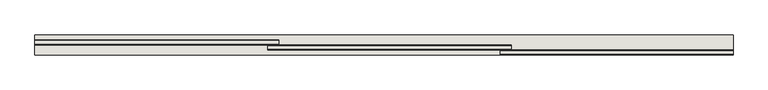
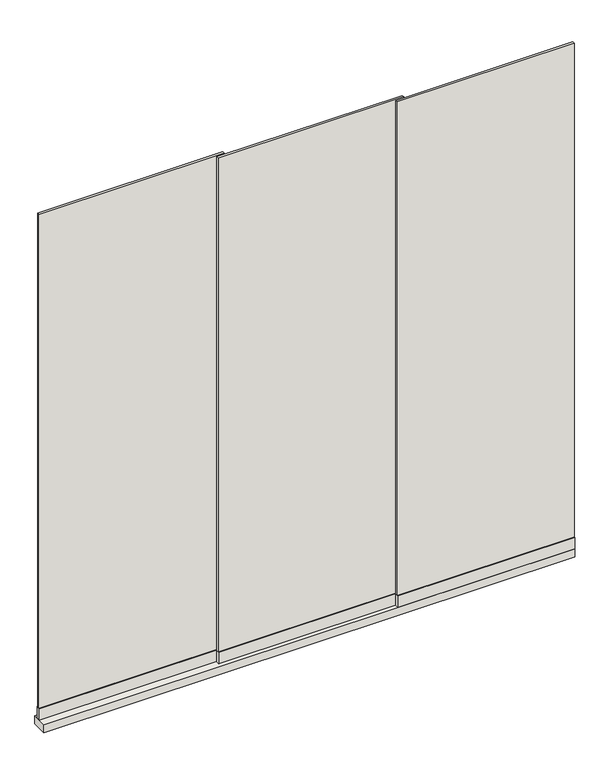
"""IFC4 building model written with IfcOpenShell, lengths in millimetres: wall geometry, Renson_Amani_Glass_Sliding_Panel : Renson_Amani_Glass_Sliding_Panel."""

from ifc_helpers import new_model, si_unit, frame, origin, origin_with_axes, place, context, project, spatial, polyline, outline, extrude, source, transform, mapped, element, save


def wall_1bcae838(model_context):
    return source(origin(), model_context, "Body", "SweptSolid", [
        extrude(outline(polyline([(750.0, 0.0), (-1450.0, 0.0), (-1450.0, 64.0), (750.0, 64.0), (750.0, 0.0)])), origin_with_axes(), (0.0, 0.0, 1.0), 35.0),
        extrude(outline(polyline([(750.0, 3.0), (16.6666667, 3.0), (16.6666667, 13.0), (750.0, 13.0), (750.0, 3.0)])), frame((0.0, 0.0, 86.0), z_axis=(0.0, 0.0, 1.0), x_axis=(1.0, 0.0, 0.0)), (0.0, 0.0, 1.0), 2164.0),
        extrude(outline(polyline([(51.6666667, 19.0), (-716.6666667, 19.0), (-716.6666667, 29.0), (51.6666667, 29.0), (51.6666667, 19.0)])), frame((0.0, 0.0, 86.0), z_axis=(0.0, 0.0, 1.0), x_axis=(1.0, 0.0, 0.0)), (0.0, 0.0, 1.0), 2164.0),
        extrude(outline(polyline([(-681.6666667, 35.0), (-1450.0, 35.0), (-1450.0, 45.0), (-681.6666667, 45.0), (-681.6666667, 35.0)])), frame((0.0, 0.0, 86.0), z_axis=(0.0, 0.0, 1.0), x_axis=(1.0, 0.0, 0.0)), (0.0, 0.0, 1.0), 2164.0),
        extrude(outline(polyline([(750.0, 0.0), (16.6666667, 0.0), (16.6666667, 16.0), (750.0, 16.0), (750.0, 0.0)])), frame((0.0, 0.0, 35.0), z_axis=(0.0, 0.0, 1.0), x_axis=(1.0, 0.0, 0.0)), (0.0, 0.0, 1.0), 51.0),
        extrude(outline(polyline([(51.6666667, 16.0), (-716.6666667, 16.0), (-716.6666667, 32.0), (51.6666667, 32.0), (51.6666667, 16.0)])), frame((0.0, 0.0, 35.0), z_axis=(0.0, 0.0, 1.0), x_axis=(1.0, 0.0, 0.0)), (0.0, 0.0, 1.0), 51.0),
        extrude(outline(polyline([(-681.6666667, 32.0), (-1450.0, 32.0), (-1450.0, 48.0), (-681.6666667, 48.0), (-681.6666667, 32.0)])), frame((0.0, 0.0, 35.0), z_axis=(0.0, 0.0, 1.0), x_axis=(1.0, 0.0, 0.0)), (0.0, 0.0, 1.0), 51.0),
    ])


if __name__ == "__main__":
    model = new_model("IFC4")
    model_context = context("Model", 3, world=origin())
    ifc_project = project(units=[si_unit("LENGTHUNIT", "METRE", prefix="MILLI")], contexts=[model_context])
    site = spatial("IfcSite", under=ifc_project)
    building = spatial("IfcBuilding", under=site)
    placement = place(None, origin())
    wall_shape = wall_1bcae838(model_context)
    element("IfcWall", 1, ObjectType="Renson_Amani_Glass_Sliding_Panel : Renson_Amani_Glass_Sliding_Panel", at=placement, inside=building, context=model_context, shape_type="MappedRepresentation", body=[
        mapped(wall_shape, transform((0.0, 0.0, 0.0), x_axis=(1.0, 0.0, 0.0), y_axis=(0.0, 1.0, 0.0), z_axis=(0.0, 0.0, 1.0))),
    ])
    save(model, "model.ifc")
